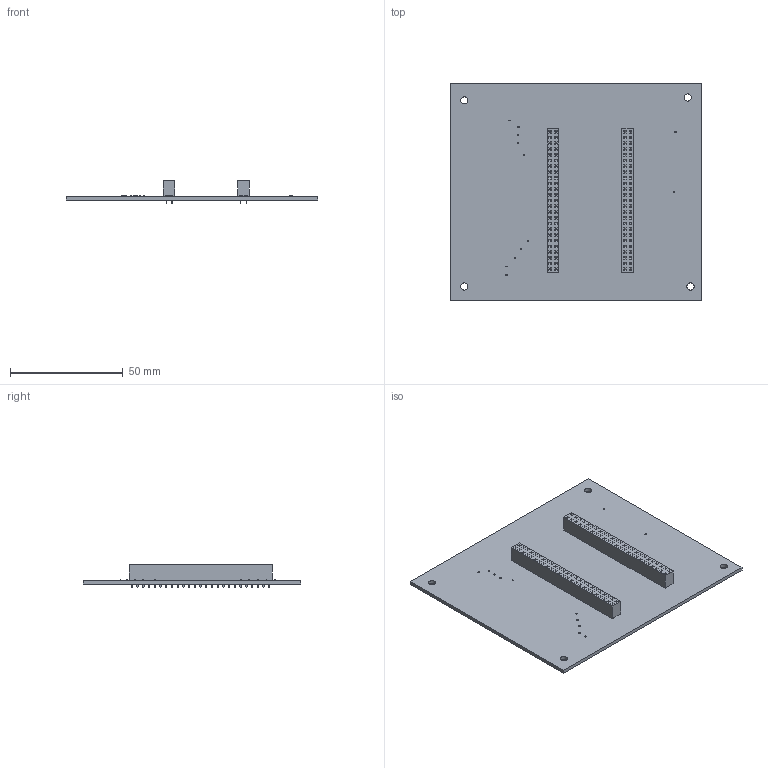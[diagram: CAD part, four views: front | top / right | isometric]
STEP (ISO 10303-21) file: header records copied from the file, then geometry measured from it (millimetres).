
FILE_DESCRIPTION(('KiCad electronic assembly'),'2;1');
FILE_NAME('Final Project - Shield (2).step','2023-06-01T00:04:12',( 'Pcbnew'),('Kicad'),'Open CASCADE STEP processor 7.6', 'KiCad to STEP converter','Unknown');
FILE_SCHEMA(('AUTOMOTIVE_DESIGN { 1 0 10303 214 1 1 1 1 }'));
Length unit declared in the file: millimetre
Products named in the file (6): Final Project - Shield (2) 1; R_0201_0603Metric; SOLID; PinSocket_2x25_P2.54mm_Vertical; PCB
Assembly tree (17 placements, depth 3):
  Final Project - Shield (2) 1
    R_0201_0603Metric  x12
      SOLID
    PinSocket_2x25_P2.54mm_Vertical  x2
      SOLID
    PCB
Bounding box: 111.76 x 96.52 x 10.1 mm (x, y, z)
Volume: 21329.9 mm3; surface area: 27915.3 mm2
Topology: 15 solids, 15 shells, 3542 faces, 9188 edges, 5976 vertices
Faces by surface type: plane 3342, cylinder 200
Full cylindrical faces by diameter (mm): 1 x100, 3.2 x4
Entity records: 120564 total; most frequent: CARTESIAN_POINT 19134, DIRECTION 16684, LINE 12800, VECTOR 12800, ORIENTED_EDGE 8832, PCURVE 8832, DEFINITIONAL_REPRESENTATION 8832, EDGE_CURVE 4416
